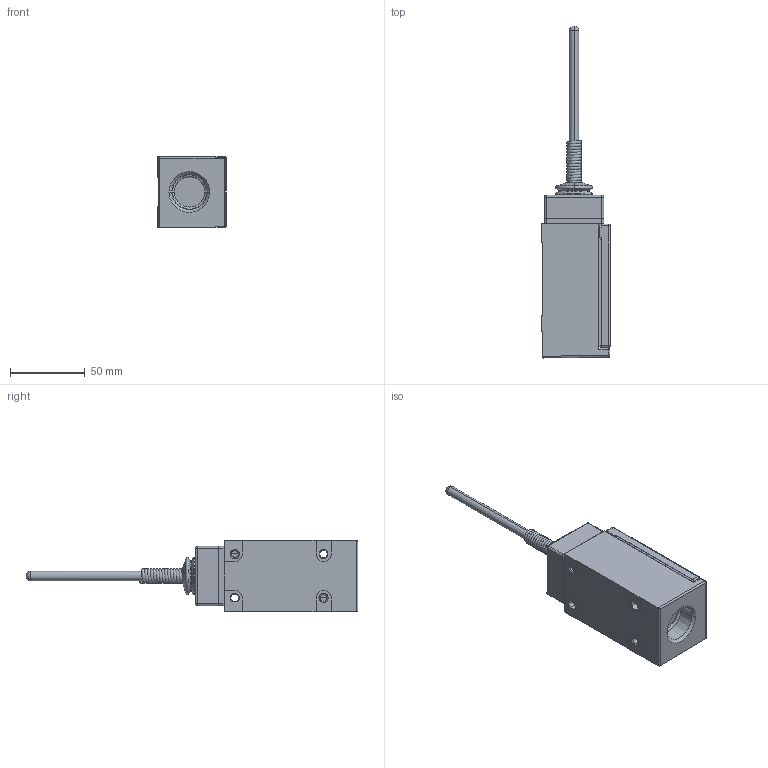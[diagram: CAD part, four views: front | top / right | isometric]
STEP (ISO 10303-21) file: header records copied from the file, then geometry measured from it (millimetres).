
FILE_DESCRIPTION((''),'2;1');
FILE_NAME('LSJ4L-7A','2012-12-06T',('E522935'),(''),'PRO/ENGINEER BY PARAMETRIC TECHNOLOGY CORPORATION, 2009460','PRO/ENGINEER BY PARAMETRIC TECHNOLOGY CORPORATION, 2009460','');
FILE_SCHEMA(('CONFIG_CONTROL_DESIGN'));
Length unit declared in the file: inch
Products named in the file (1): LSJ4L-7A
Bounding box: 46.02 x 222.25 x 47.62 mm (x, y, z)
Volume: 218326.8 mm3; surface area: 34639.8 mm2
Topology: 1 solids, 3 shells, 540 faces, 1342 edges, 818 vertices
Faces by surface type: plane 259, cylinder 181, cone 42, sphere 25, bspline 21, torus 12
Entity records: 23894 total; most frequent: CARTESIAN_POINT 11046, DIRECTION 2707, ORIENTED_EDGE 2680, EDGE_CURVE 1340, AXIS2_PLACEMENT_3D 1002, VERTEX_POINT 818, VECTOR 703, LINE 703
